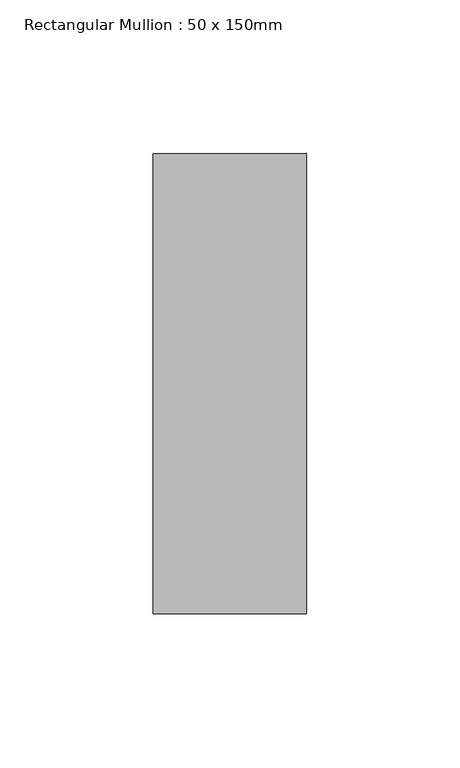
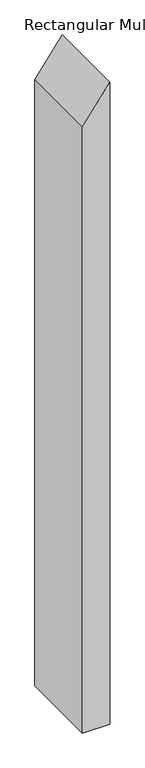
"""IFC4 building model written with IfcOpenShell, lengths in millimetres: member geometry, Rectangular Mullion : 50 x 150mm."""

from ifc_helpers import new_model, si_unit, frame, origin, place, context, project, spatial, polyline, outline, extrude, source, transform, mapped, element, save


def rectangular_mullion_50_x_150mm_0940c479(model_context):
    return source(origin(), model_context, "Body", "SweptSolid", [
        extrude(outline(polyline([(0.0, 0.0), (-69.3649788, -50.0), (-1237.4690342, -50.0), (-1237.4690342, 0.0), (0.0, 0.0)])), frame((0.0, -75.0, 0.0), z_axis=(0.0, 1.0, 0.0), x_axis=(0.0, 0.0, 1.0)), (0.0, 0.0, 1.0), 150.0),
    ])


if __name__ == "__main__":
    model = new_model("IFC4")
    model_context = context("Model", 3, world=origin())
    ifc_project = project(units=[si_unit("LENGTHUNIT", "METRE", prefix="MILLI")], contexts=[model_context])
    site = spatial("IfcSite", under=ifc_project)
    building = spatial("IfcBuilding", under=site)
    placement = place(None, origin())
    rectangular_mullion_50_x_150mm_shape = rectangular_mullion_50_x_150mm_0940c479(model_context)
    element("IfcMember", 1, ObjectType="Rectangular Mullion : 50 x 150mm", at=placement, inside=building, context=model_context, shape_type="MappedRepresentation", body=[
        mapped(rectangular_mullion_50_x_150mm_shape, transform((0.0, 0.0, 0.0), x_axis=(1.0, 0.0, 0.0), y_axis=(0.0, 1.0, 0.0), z_axis=(0.0, 0.0, 1.0))),
    ])
    save(model, "model.ifc")
